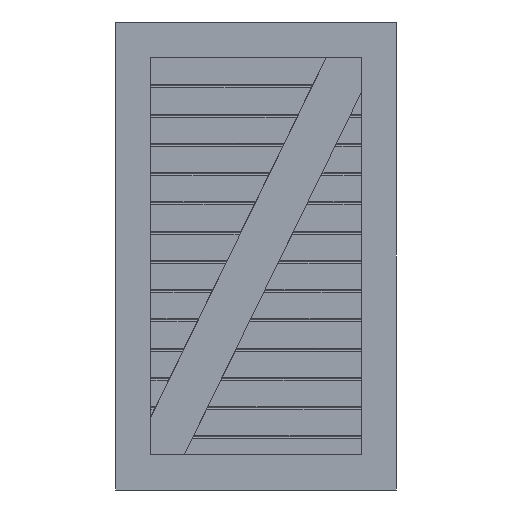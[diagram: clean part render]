
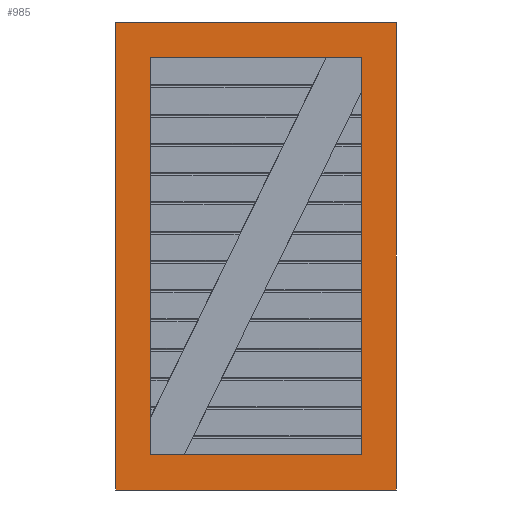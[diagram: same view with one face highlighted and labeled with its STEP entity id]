
A CAD part, left-side view. The second image highlights one B-rep face of the part: STEP entity #985.
In plain terms, the highlighted planar face has unit normal (-1, 0, 0).
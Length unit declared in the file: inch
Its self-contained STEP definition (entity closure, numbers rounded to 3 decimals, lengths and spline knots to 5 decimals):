
#10 = DIRECTION ( 'NONE',  ( 0., 0., 1. ) ) ;
#121 = CARTESIAN_POINT ( 'NONE',  ( -4., 0.375, 2.125 ) ) ;
#179 = LINE ( 'NONE', #2018, #2209 ) ;
#232 = CARTESIAN_POINT ( 'NONE',  ( -4., 0., -2.5 ) ) ;
#251 = CARTESIAN_POINT ( 'NONE',  ( -4., 3., -2.5 ) ) ;
#282 = EDGE_CURVE ( 'NONE', #2814, #1297, #179, .T. ) ;
#317 = EDGE_LOOP ( 'NONE', ( #2172, #2426, #2311, #642 ) ) ;
#327 = LINE ( 'NONE', #1128, #2599 ) ;
#332 = VECTOR ( 'NONE', #2118, 39.37008 ) ;
#379 = VERTEX_POINT ( 'NONE', #569 ) ;
#515 = CARTESIAN_POINT ( 'NONE',  ( -4., 3., 2.5 ) ) ;
#541 = LINE ( 'NONE', #1605, #1036 ) ;
#569 = CARTESIAN_POINT ( 'NONE',  ( -4., 0.375, -2.125 ) ) ;
#603 = CARTESIAN_POINT ( 'NONE',  ( -4., 3., 2.5 ) ) ;
#642 = ORIENTED_EDGE ( 'NONE', *, *, #2389, .T. ) ;
#686 = LINE ( 'NONE', #2288, #1506 ) ;
#731 = FACE_BOUND ( 'NONE', #944, .T. ) ;
#745 = DIRECTION ( 'NONE',  ( 0., 0., -1. ) ) ;
#776 = VERTEX_POINT ( 'NONE', #1940 ) ;
#877 = DIRECTION ( 'NONE',  ( 0., 0., 1. ) ) ;
#936 = CARTESIAN_POINT ( 'NONE',  ( -4., 0., 2.5 ) ) ;
#944 = EDGE_LOOP ( 'NONE', ( #2286, #1092, #2761, #1664 ) ) ;
#976 = LINE ( 'NONE', #2320, #1805 ) ;
#985 = ADVANCED_FACE ( 'NONE', ( #2858, #731 ), #2875, .F. ) ;
#1036 = VECTOR ( 'NONE', #1839, 39.37008 ) ;
#1092 = ORIENTED_EDGE ( 'NONE', *, *, #1993, .T. ) ;
#1128 = CARTESIAN_POINT ( 'NONE',  ( -4., 3., 2.5 ) ) ;
#1143 = VECTOR ( 'NONE', #2865, 39.37008 ) ;
#1173 = DIRECTION ( 'NONE',  ( 0., -1., 0. ) ) ;
#1255 = VECTOR ( 'NONE', #10, 39.37008 ) ;
#1297 = VERTEX_POINT ( 'NONE', #2178 ) ;
#1312 = EDGE_CURVE ( 'NONE', #1297, #1793, #1897, .T. ) ;
#1337 = VERTEX_POINT ( 'NONE', #251 ) ;
#1479 = LINE ( 'NONE', #515, #332 ) ;
#1506 = VECTOR ( 'NONE', #1173, 39.37008 ) ;
#1509 = CARTESIAN_POINT ( 'NONE',  ( -4., 2.625, -2.125 ) ) ;
#1526 = CARTESIAN_POINT ( 'NONE',  ( -4., 0.375, 2.125 ) ) ;
#1557 = DIRECTION ( 'NONE',  ( 0., 0., -1. ) ) ;
#1588 = VERTEX_POINT ( 'NONE', #1999 ) ;
#1605 = CARTESIAN_POINT ( 'NONE',  ( -4., 0.375, -2.125 ) ) ;
#1664 = ORIENTED_EDGE ( 'NONE', *, *, #282, .T. ) ;
#1793 = VERTEX_POINT ( 'NONE', #121 ) ;
#1805 = VECTOR ( 'NONE', #745, 39.37008 ) ;
#1838 = LINE ( 'NONE', #936, #1255 ) ;
#1839 = DIRECTION ( 'NONE',  ( 0., 1., 0. ) ) ;
#1872 = AXIS2_PLACEMENT_3D ( 'NONE', #603, #2901, #1557 ) ;
#1897 = LINE ( 'NONE', #1526, #1143 ) ;
#1940 = CARTESIAN_POINT ( 'NONE',  ( -4., 0., 2.5 ) ) ;
#1978 = EDGE_CURVE ( 'NONE', #1588, #776, #1479, .T. ) ;
#1993 = EDGE_CURVE ( 'NONE', #1793, #379, #976, .T. ) ;
#1999 = CARTESIAN_POINT ( 'NONE',  ( -4., 3., 2.5 ) ) ;
#2018 = CARTESIAN_POINT ( 'NONE',  ( -4., 2.625, -2.125 ) ) ;
#2118 = DIRECTION ( 'NONE',  ( 0., -1., 0. ) ) ;
#2143 = EDGE_CURVE ( 'NONE', #1337, #1588, #327, .T. ) ;
#2172 = ORIENTED_EDGE ( 'NONE', *, *, #2263, .T. ) ;
#2178 = CARTESIAN_POINT ( 'NONE',  ( -4., 2.625, 2.125 ) ) ;
#2209 = VECTOR ( 'NONE', #2707, 39.37008 ) ;
#2237 = VERTEX_POINT ( 'NONE', #232 ) ;
#2263 = EDGE_CURVE ( 'NONE', #2237, #776, #1838, .T. ) ;
#2286 = ORIENTED_EDGE ( 'NONE', *, *, #1312, .T. ) ;
#2288 = CARTESIAN_POINT ( 'NONE',  ( -4., 3., -2.5 ) ) ;
#2311 = ORIENTED_EDGE ( 'NONE', *, *, #2143, .F. ) ;
#2320 = CARTESIAN_POINT ( 'NONE',  ( -4., 0.375, -2.125 ) ) ;
#2389 = EDGE_CURVE ( 'NONE', #1337, #2237, #686, .T. ) ;
#2426 = ORIENTED_EDGE ( 'NONE', *, *, #1978, .F. ) ;
#2599 = VECTOR ( 'NONE', #877, 39.37008 ) ;
#2707 = DIRECTION ( 'NONE',  ( 0., 0., 1. ) ) ;
#2761 = ORIENTED_EDGE ( 'NONE', *, *, #2903, .T. ) ;
#2814 = VERTEX_POINT ( 'NONE', #1509 ) ;
#2858 = FACE_OUTER_BOUND ( 'NONE', #317, .T. ) ;
#2865 = DIRECTION ( 'NONE',  ( 0., -1., 0. ) ) ;
#2875 = PLANE ( 'NONE',  #1872 ) ;
#2901 = DIRECTION ( 'NONE',  ( 1., 0., 0. ) ) ;
#2903 = EDGE_CURVE ( 'NONE', #379, #2814, #541, .T. ) ;
